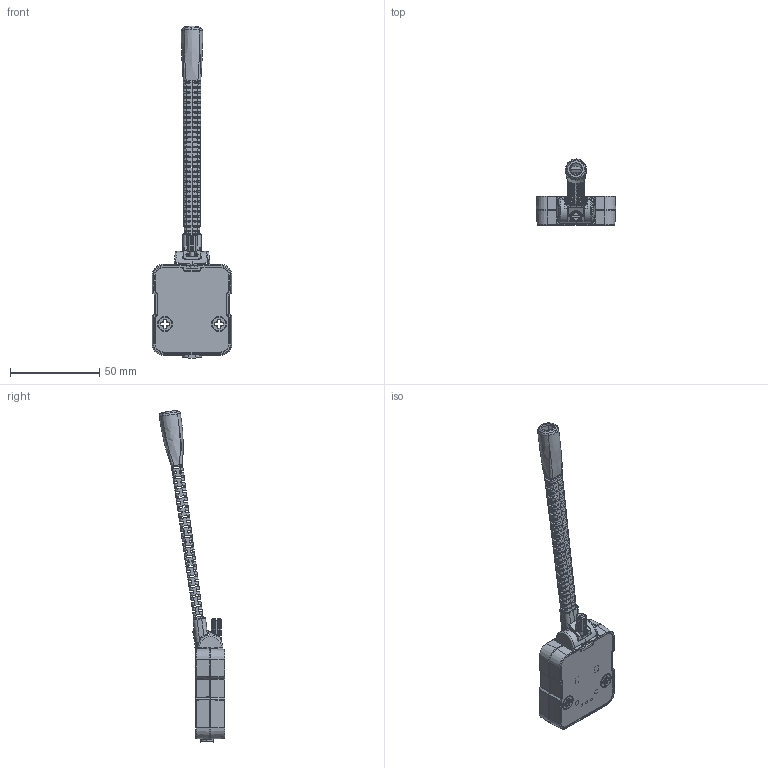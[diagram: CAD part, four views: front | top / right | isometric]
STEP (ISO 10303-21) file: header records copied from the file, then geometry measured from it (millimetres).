
FILE_DESCRIPTION((''),'2;1');
FILE_NAME('MASTER_292_ADAPTER_KIF_ASM','2022-02-28T13:25:53',('mthomps2'),(''),'CREO PARAMETRIC BY PTC INC, 2019080','CREO PARAMETRIC BY PTC INC, 2019080','');
FILE_SCHEMA(('CONFIG_CONTROL_DESIGN','SHAPE_APPEARANCE_LAYERS_GROUPS'));
Length unit declared in the file: inch
Products named in the file (55): BODY_26_1_1; BODY_25_1_1; BODY_24_1_1; BODY_23_1_1; BODY_22_1_1; BODY_21_1_1; BODY_20_1_1; BODY_19_1_1; BODY_18_1_1; BODY_17_1_1; BODY_16_1_1; BODY_14_1_AF0_1; MANIFOLD_SOLID_BREP_98971; MANIFOLD_SOLID_BREP_99388; BODY_12_1_AF0_1_ASM; MANIFOLD_SOLID_BREP_99614; MANIFOLD_SOLID_BREP_100031; BODY_11_1_AF0_1_ASM; MANIFOLD_SOLID_BREP_100258; MANIFOLD_SOLID_BREP_100675; BODY_10_1_AF0_1_ASM; MANIFOLD_SOLID_BREP_100901; MANIFOLD_SOLID_BREP_101318; BODY_9_1_AF0_1_ASM; MANIFOLD_SOLID_BREP_101545; MANIFOLD_SOLID_BREP_101962; BODY_8_1_AF0_1_ASM; MANIFOLD_SOLID_BREP_102188; MANIFOLD_SOLID_BREP_102605; BODY_7_1_AF0_1_ASM; MANIFOLD_SOLID_BREP_102832; MANIFOLD_SOLID_BREP_103249; BODY_6_1_AF0_1_ASM; MANIFOLD_SOLID_BREP_103475; MANIFOLD_SOLID_BREP_103892; BODY_5_1_AF0_1_ASM; BODY_3_1_AF0_1; L99-897-XXX_ASM_ASM_1_AF0_ASM_1_ASM; L99-897-XXX_ASM_ASM_ASM_1_ASM; TEKFLEX-CONNECTOR_TOOLED29JAN15_ASM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
Assembly tree (58 placements, depth 8):
  MASTER_292_ADAPTER_KIF_ASM
    CAGE_ASSEMBLY_KIF_ASM
      TEKFLEX_BOOT-ASSY_PROD_BC_ASM
        TEKFLEX-CONNECTOR_TOOLED29JAN15_ASM
          L99-897-XXX_ASM_ASM_ASM_1_ASM
            L99-897-XXX_ASM_ASM_1_AF0_ASM_1_ASM
              BODY_26_1_1
              BODY_25_1_1
              BODY_24_1_1
              BODY_23_1_1
              BODY_22_1_1
              BODY_21_1_1
              BODY_20_1_1
              BODY_19_1_1
              BODY_18_1_1
              BODY_17_1_1
              BODY_16_1_1
              BODY_14_1_AF0_1
              BODY_12_1_AF0_1_ASM
                MANIFOLD_SOLID_BREP_98971
                MANIFOLD_SOLID_BREP_99388
              BODY_11_1_AF0_1_ASM
                MANIFOLD_SOLID_BREP_99614
                MANIFOLD_SOLID_BREP_100031
              BODY_10_1_AF0_1_ASM
                MANIFOLD_SOLID_BREP_100258
                MANIFOLD_SOLID_BREP_100675
              BODY_9_1_AF0_1_ASM
                MANIFOLD_SOLID_BREP_100901
                MANIFOLD_SOLID_BREP_101318
              BODY_8_1_AF0_1_ASM
                MANIFOLD_SOLID_BREP_101545
                MANIFOLD_SOLID_BREP_101962
              BODY_7_1_AF0_1_ASM
                MANIFOLD_SOLID_BREP_102188
                MANIFOLD_SOLID_BREP_102605
              BODY_6_1_AF0_1_ASM
                MANIFOLD_SOLID_BREP_102832
                MANIFOLD_SOLID_BREP_103249
              BODY_5_1_AF0_1_ASM
                MANIFOLD_SOLID_BREP_103475
                MANIFOLD_SOLID_BREP_103892
              BODY_3_1_AF0_1
        BOOT_TEKFLEK-PROD_BC
        BOOT_DC-COVER-PROD_BC
      PROBETIP_CAPTURE_ASSEMBLY_KIF_ASM
        276200100
        129187100
    COVER_BTM_ASM_KIF_ASM
      COVER_BTM_292_ADAPTER_KIF
      BUSHING-LEGO-BC  x2
    COVER_TOP_292_ADAPTER_KIF
    LABEL_TOP_292_ADAPTOE
    LABEL_BOTTOM_292_KIF
    SCREW_PLASTIC_2P5X8MM_PAN_T8_KI  x4
Bounding box: 44.61 x 36.62 x 185.65 mm (x, y, z)
Volume: 18608.5 mm3; surface area: 35352.9 mm2
Topology: 39 solids, 44 shells, 4953 faces, 13768 edges, 8809 vertices
Faces by surface type: plane 1739, cylinder 1684, bspline 819, cone 366, torus 198, sphere 145, extrusion 2
Entity records: 228025 total; most frequent: CARTESIAN_POINT 64358, ORIENTED_EDGE 23534, DIRECTION 19888, PRESENTATION_STYLE_ASSIGNMENT 14543, STYLED_ITEM 14543, EDGE_CURVE 11860, CURVE_STYLE 11194, VERTEX_POINT 7512
